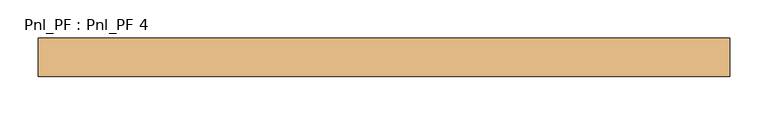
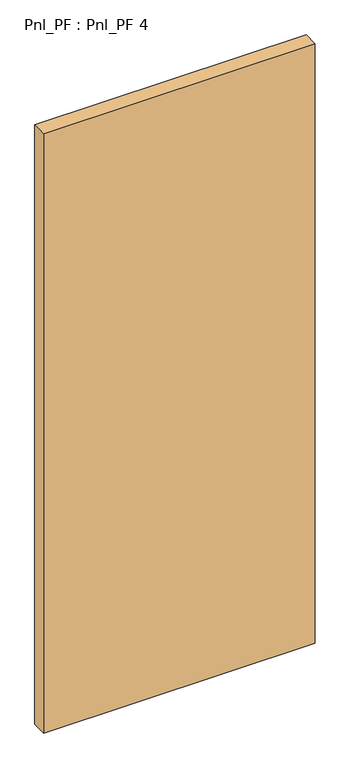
"""IFC4 building model written with IfcOpenShell, lengths in millimetres: door geometry, Pnl_PF : Pnl_PF 4."""

from ifc_helpers import new_model, si_unit, origin, origin_with_axes, place, context, project, spatial, polyline, outline, extrude, source, transform, mapped, element, save


def pnl_pf_pnl_pf_4_7c45ae1c(model_context):
    return source(origin(), model_context, "Body", "SweptSolid", [
        extrude(outline(polyline([(900.0, 50.0), (900.0, 0.0), (0.0, 0.0), (0.0, 50.0), (900.0, 50.0)])), origin_with_axes(), (0.0, 0.0, 1.0), 2100.0),
    ])


if __name__ == "__main__":
    model = new_model("IFC4")
    model_context = context("Model", 3, world=origin())
    ifc_project = project(units=[si_unit("LENGTHUNIT", "METRE", prefix="MILLI")], contexts=[model_context])
    site = spatial("IfcSite", under=ifc_project)
    building = spatial("IfcBuilding", under=site)
    placement = place(None, origin())
    pnl_pf_pnl_pf_4_shape = pnl_pf_pnl_pf_4_7c45ae1c(model_context)
    element("IfcDoor", 1, ObjectType="Pnl_PF : Pnl_PF 4", at=placement, inside=building, context=model_context, shape_type="MappedRepresentation", body=[
        mapped(pnl_pf_pnl_pf_4_shape, transform((0.0, 0.0, 0.0), x_axis=(1.0, 0.0, 0.0), y_axis=(0.0, 1.0, 0.0), z_axis=(0.0, 0.0, 1.0))),
    ])
    save(model, "model.ifc")
